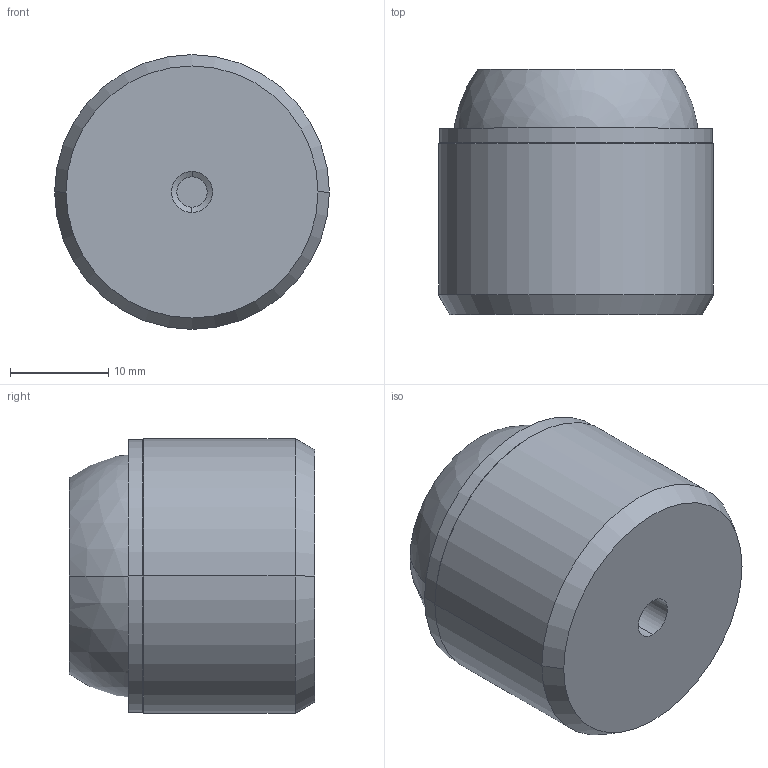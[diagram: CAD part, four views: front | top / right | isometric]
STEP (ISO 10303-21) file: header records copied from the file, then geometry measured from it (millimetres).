
FILE_DESCRIPTION (( 'STEP AP214' ), '1' );
FILE_NAME ('709.2-28-R.step', '2023-01-26T12:37:45', ( '' ), ( '' ), 'SwSTEP 2.0', 'SolidWorks 2022', '' );
FILE_SCHEMA (( 'AUTOMOTIVE_DESIGN' ));
Length unit declared in the file: millimetre
Products named in the file (3): WB709.2_Gehäuse^WB709.2_28; WB709.2_Kugel^WB709.2_25-B; 709.2-28-R
Assembly tree (2 placements, depth 2):
  709.2-28-R
    WB709.2_Gehäuse^WB709.2_28
    WB709.2_Kugel^WB709.2_25-B
Bounding box: 28 x 25 x 28 mm (x, y, z)
Volume: 13527.7 mm3; surface area: 5297.7 mm2
Topology: 2 solids, 2 shells, 21 faces, 50 edges, 30 vertices
Faces by surface type: cylinder 6, cone 6, plane 5, sphere 4
Entity records: 674 total; most frequent: DIRECTION 120, CARTESIAN_POINT 90, ORIENTED_EDGE 80, AXIS2_PLACEMENT_3D 54, EDGE_CURVE 40, CIRCLE 28, VERTEX_POINT 24, EDGE_LOOP 24
